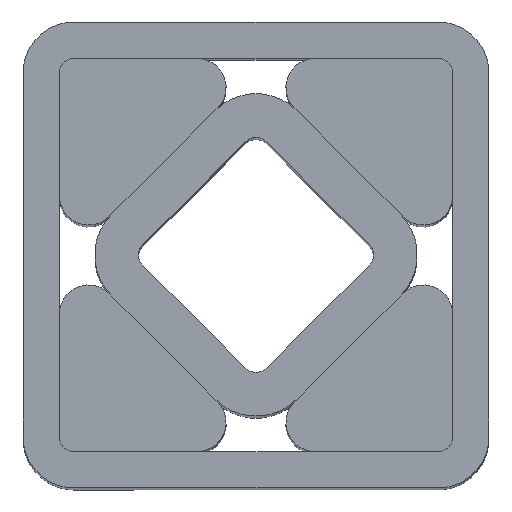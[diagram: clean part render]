
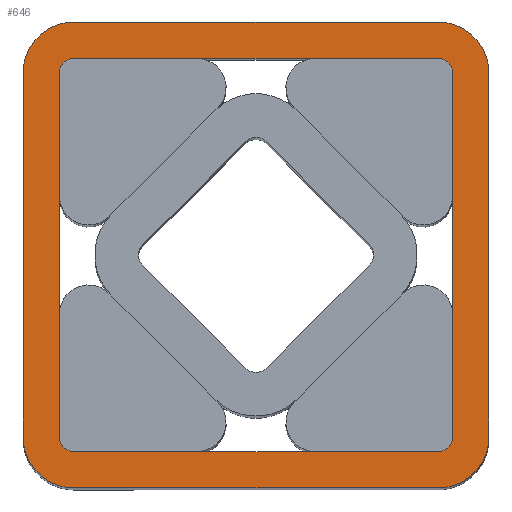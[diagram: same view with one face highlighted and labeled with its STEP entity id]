
A CAD part, top view. The second image highlights one B-rep face of the part: STEP entity #646.
In plain terms, the highlighted planar face has unit normal (0, 0, 1).
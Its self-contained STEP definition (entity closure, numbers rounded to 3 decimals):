
#88=CARTESIAN_POINT('',(-12.5,13.5,80.0));
#89=VERTEX_POINT('',#88);
#90=CARTESIAN_POINT('',(12.5,13.5,80.0));
#91=VERTEX_POINT('',#90);
#92=CARTESIAN_POINT('',(-12.5,13.5,80.0));
#93=DIRECTION('',(1.0,0.0,0.0));
#94=VECTOR('',#93,25.);
#95=LINE('',#92,#94);
#96=EDGE_CURVE('',#89,#91,#95,.T.);
#128=CARTESIAN_POINT('',(13.5,12.5,80.0));
#129=VERTEX_POINT('',#128);
#130=CARTESIAN_POINT('',(12.5,12.5,80.0));
#131=DIRECTION('',(0.0,0.0,-1.0));
#132=DIRECTION('',(-1.0,0.0,0.0));
#133=AXIS2_PLACEMENT_3D('',#130,#131,#132);
#134=CIRCLE('',#133,1.);
#135=EDGE_CURVE('',#91,#129,#134,.T.);
#161=CARTESIAN_POINT('',(13.5,-12.5,80.0));
#162=VERTEX_POINT('',#161);
#163=CARTESIAN_POINT('',(13.5,12.5,80.0));
#164=DIRECTION('',(0.0,-1.0,0.0));
#165=VECTOR('',#164,25.);
#166=LINE('',#163,#165);
#167=EDGE_CURVE('',#129,#162,#166,.T.);
#192=CARTESIAN_POINT('',(12.5,-13.5,80.0));
#193=VERTEX_POINT('',#192);
#194=CARTESIAN_POINT('',(12.5,-12.5,80.0));
#195=DIRECTION('',(0.0,0.0,-1.0));
#196=DIRECTION('',(0.0,1.0,0.0));
#197=AXIS2_PLACEMENT_3D('',#194,#195,#196);
#198=CIRCLE('',#197,1.);
#199=EDGE_CURVE('',#162,#193,#198,.T.);
#225=CARTESIAN_POINT('',(-12.5,-13.5,80.0));
#226=VERTEX_POINT('',#225);
#227=CARTESIAN_POINT('',(12.5,-13.5,80.0));
#228=DIRECTION('',(-1.0,0.0,0.0));
#229=VECTOR('',#228,25.);
#230=LINE('',#227,#229);
#231=EDGE_CURVE('',#193,#226,#230,.T.);
#256=CARTESIAN_POINT('',(-13.5,-12.5,80.0));
#257=VERTEX_POINT('',#256);
#258=CARTESIAN_POINT('',(-12.5,-12.5,80.0));
#259=DIRECTION('',(0.0,0.0,-1.0));
#260=DIRECTION('',(1.0,0.0,0.0));
#261=AXIS2_PLACEMENT_3D('',#258,#259,#260);
#262=CIRCLE('',#261,1.);
#263=EDGE_CURVE('',#226,#257,#262,.T.);
#289=CARTESIAN_POINT('',(-13.5,12.5,80.0));
#290=VERTEX_POINT('',#289);
#291=CARTESIAN_POINT('',(-13.5,-12.5,80.0));
#292=DIRECTION('',(0.0,1.0,0.0));
#293=VECTOR('',#292,25.);
#294=LINE('',#291,#293);
#295=EDGE_CURVE('',#257,#290,#294,.T.);
#320=CARTESIAN_POINT('',(-12.5,12.5,80.0));
#321=DIRECTION('',(0.0,0.0,-1.0));
#322=DIRECTION('',(0.0,-1.0,0.0));
#323=AXIS2_PLACEMENT_3D('',#320,#321,#322);
#324=CIRCLE('',#323,1.);
#325=EDGE_CURVE('',#290,#89,#324,.T.);
#344=CARTESIAN_POINT('',(-12.5,16.,80.0));
#345=VERTEX_POINT('',#344);
#346=CARTESIAN_POINT('',(12.5,16.,80.0));
#347=VERTEX_POINT('',#346);
#348=CARTESIAN_POINT('',(-12.5,16.,80.0));
#349=DIRECTION('',(1.0,0.0,0.0));
#350=VECTOR('',#349,25.);
#351=LINE('',#348,#350);
#352=EDGE_CURVE('',#345,#347,#351,.T.);
#384=CARTESIAN_POINT('',(16.,12.5,80.0));
#385=VERTEX_POINT('',#384);
#386=CARTESIAN_POINT('',(12.5,12.5,80.0));
#387=DIRECTION('',(0.0,0.0,-1.0));
#388=DIRECTION('',(1.0,0.0,0.0));
#389=AXIS2_PLACEMENT_3D('',#386,#387,#388);
#390=CIRCLE('',#389,3.5);
#391=EDGE_CURVE('',#347,#385,#390,.T.);
#417=CARTESIAN_POINT('',(16.,-12.5,80.0));
#418=VERTEX_POINT('',#417);
#419=CARTESIAN_POINT('',(16.,12.5,80.0));
#420=DIRECTION('',(0.0,-1.0,0.0));
#421=VECTOR('',#420,25.);
#422=LINE('',#419,#421);
#423=EDGE_CURVE('',#385,#418,#422,.T.);
#448=CARTESIAN_POINT('',(12.5,-16.,80.0));
#449=VERTEX_POINT('',#448);
#450=CARTESIAN_POINT('',(12.5,-12.5,80.0));
#451=DIRECTION('',(0.0,0.0,-1.0));
#452=DIRECTION('',(0.0,-1.0,0.0));
#453=AXIS2_PLACEMENT_3D('',#450,#451,#452);
#454=CIRCLE('',#453,3.5);
#455=EDGE_CURVE('',#418,#449,#454,.T.);
#481=CARTESIAN_POINT('',(-12.5,-16.,80.0));
#482=VERTEX_POINT('',#481);
#483=CARTESIAN_POINT('',(12.5,-16.,80.0));
#484=DIRECTION('',(-1.0,0.0,0.0));
#485=VECTOR('',#484,25.);
#486=LINE('',#483,#485);
#487=EDGE_CURVE('',#449,#482,#486,.T.);
#512=CARTESIAN_POINT('',(-16.,-12.5,80.0));
#513=VERTEX_POINT('',#512);
#514=CARTESIAN_POINT('',(-12.5,-12.5,80.0));
#515=DIRECTION('',(0.0,0.0,-1.0));
#516=DIRECTION('',(-1.0,0.0,0.0));
#517=AXIS2_PLACEMENT_3D('',#514,#515,#516);
#518=CIRCLE('',#517,3.5);
#519=EDGE_CURVE('',#482,#513,#518,.T.);
#545=CARTESIAN_POINT('',(-16.,12.5,80.0));
#546=VERTEX_POINT('',#545);
#547=CARTESIAN_POINT('',(-16.,-12.5,80.0));
#548=DIRECTION('',(0.0,1.0,0.0));
#549=VECTOR('',#548,25.);
#550=LINE('',#547,#549);
#551=EDGE_CURVE('',#513,#546,#550,.T.);
#576=CARTESIAN_POINT('',(-12.5,12.5,80.0));
#577=DIRECTION('',(0.0,0.0,-1.0));
#578=DIRECTION('',(0.0,1.0,0.0));
#579=AXIS2_PLACEMENT_3D('',#576,#577,#578);
#580=CIRCLE('',#579,3.5);
#581=EDGE_CURVE('',#546,#345,#580,.T.);
#621=CARTESIAN_POINT('',(0.,0.,80.0));
#622=DIRECTION('',(0.0,0.0,1.0));
#623=DIRECTION('',(1.0,0.0,0.0));
#624=AXIS2_PLACEMENT_3D('',#621,#622,#623);
#625=PLANE('',#624);
#626=ORIENTED_EDGE('',*,*,#352,.F.);
#627=ORIENTED_EDGE('',*,*,#581,.F.);
#628=ORIENTED_EDGE('',*,*,#551,.F.);
#629=ORIENTED_EDGE('',*,*,#519,.F.);
#630=ORIENTED_EDGE('',*,*,#487,.F.);
#631=ORIENTED_EDGE('',*,*,#455,.F.);
#632=ORIENTED_EDGE('',*,*,#423,.F.);
#633=ORIENTED_EDGE('',*,*,#391,.F.);
#634=EDGE_LOOP('',(#626,#627,#628,#629,#630,#631,#632,#633));
#635=FACE_OUTER_BOUND('',#634,.T.);
#636=ORIENTED_EDGE('',*,*,#96,.T.);
#637=ORIENTED_EDGE('',*,*,#135,.T.);
#638=ORIENTED_EDGE('',*,*,#167,.T.);
#639=ORIENTED_EDGE('',*,*,#199,.T.);
#640=ORIENTED_EDGE('',*,*,#231,.T.);
#641=ORIENTED_EDGE('',*,*,#263,.T.);
#642=ORIENTED_EDGE('',*,*,#295,.T.);
#643=ORIENTED_EDGE('',*,*,#325,.T.);
#644=EDGE_LOOP('',(#636,#637,#638,#639,#640,#641,#642,#643));
#645=FACE_BOUND('',#644,.T.);
#646=ADVANCED_FACE('',(#635,#645),#625,.T.);
